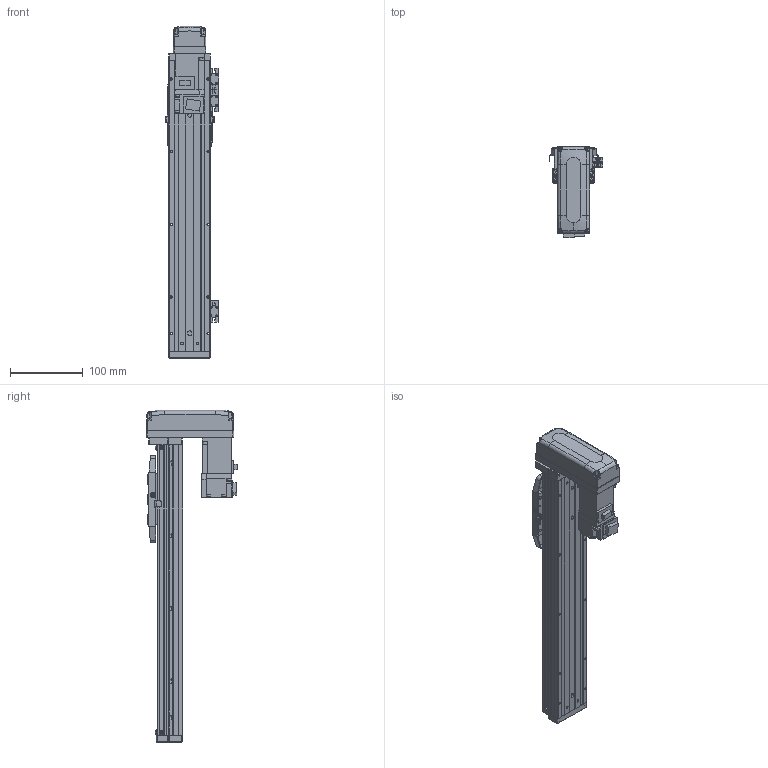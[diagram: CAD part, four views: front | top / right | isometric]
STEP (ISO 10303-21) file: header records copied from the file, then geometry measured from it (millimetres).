
FILE_DESCRIPTION (( 'STEP AP203' ), '1' );
FILE_NAME ('CTHA50-250-BM-M10-C4L.step', '2022-03-19T06:02:58', ( '微软用户' ), ( '微软中国' ), 'SwSTEP 2.0', 'SolidWorks 2020', '' );
FILE_SCHEMA (( 'CONFIG_CONTROL_DESIGN' ));
Length unit declared in the file: millimetre
Products named in the file (20): GBT 70.3-M3℅6; KTHA50-004; KTHA50-005; CTHA60-016; CTHA50-015-2_CTHA60-015-2; GB¨uT 70.2-M3¡Á6_M3¡Á6; CTHA60-021; CTHA60-033; EE_SX911P_R; HG-KR13（三菱）; GBT 70.1-M3×15; GBT77-2000 M3×3; CTHA50-002; CTHA50-250-BM-M10-C4L; GBT 70.1-M3℅6; CTHA50-030; CTHA60-017; CTHA50-031; KTHA50-001_400; GBT 70.1-M4×12
Assembly tree (60 placements, depth 2):
  CTHA50-250-BM-M10-C4L
    KTHA50-001_400
    KTHA50-004
    KTHA50-005
    GB¨uT 70.2-M3¡Á6_M3¡Á6  x10
    EE_SX911P_R  x3
    GBT77-2000 M3×3  x6
    GBT 70.1-M3℅6  x6
    CTHA60-017  x3
    GBT 70.1-M4×12  x10
    CTHA60-016  x2
    CTHA60-021  x2
    HG-KR13（三菱）
    CTHA50-002
    CTHA50-030  x2
    CTHA50-031
    GBT 70.3-M3℅6  x4
    CTHA50-015-2_CTHA60-015-2
    CTHA60-033
    GBT 70.1-M3×15  x4
Bounding box: 74.12 x 125.3 x 457 mm (x, y, z)
Volume: 1018484 mm3; surface area: 265406.9 mm2
Topology: 62 solids, 62 shells, 2493 faces, 5911 edges, 3618 vertices
Faces by surface type: plane 1410, cylinder 576, cone 349, torus 108, bspline 26, sphere 24
Entity records: 42039 total; most frequent: CARTESIAN_POINT 7771, DIRECTION 6535, ORIENTED_EDGE 6330, EDGE_CURVE 3165, LINE 2211, VECTOR 2211, AXIS2_PLACEMENT_3D 2162, VERTEX_POINT 1992
